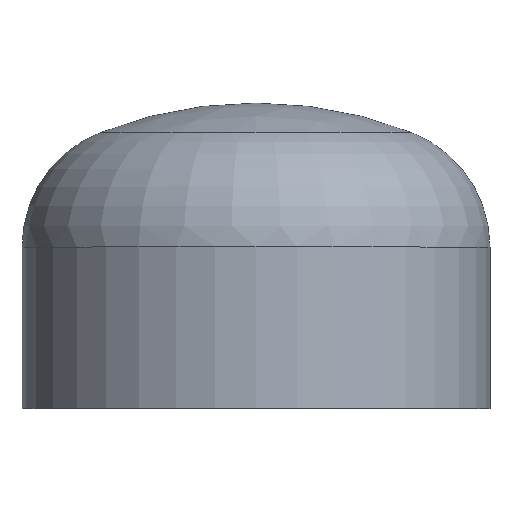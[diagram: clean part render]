
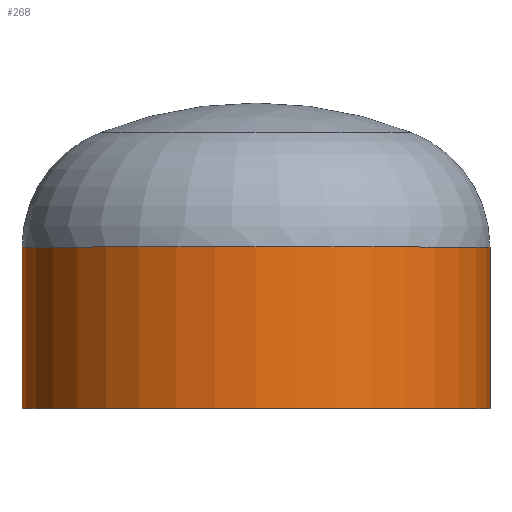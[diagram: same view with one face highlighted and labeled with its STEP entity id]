
A CAD part, top view. The second image highlights one B-rep face of the part: STEP entity #268.
In plain terms, the highlighted cylindrical face has radius 203.2 mm (diameter 406.4 mm), a partial arc.
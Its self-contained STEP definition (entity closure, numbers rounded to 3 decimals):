
#5 = FACE_OUTER_BOUND ( 'NONE', #96, .T. ) ;
#37 = VERTEX_POINT ( 'NONE', #398 ) ;
#40 = CARTESIAN_POINT ( 'NONE',  ( 0., 0., 0. ) ) ;
#41 = ORIENTED_EDGE ( 'NONE', *, *, #373, .T. ) ;
#51 = ORIENTED_EDGE ( 'NONE', *, *, #138, .F. ) ;
#53 = ORIENTED_EDGE ( 'NONE', *, *, #401, .F. ) ;
#56 = VERTEX_POINT ( 'NONE', #280 ) ;
#66 = AXIS2_PLACEMENT_3D ( 'NONE', #40, #181, #241 ) ;
#74 = VERTEX_POINT ( 'NONE', #234 ) ;
#92 = VERTEX_POINT ( 'NONE', #243 ) ;
#96 = EDGE_LOOP ( 'NONE', ( #169, #41, #53, #51 ) ) ;
#118 = EDGE_CURVE ( 'NONE', #92, #56, #232, .T. ) ;
#120 = CIRCLE ( 'NONE', #324, 203.2 ) ;
#132 = AXIS2_PLACEMENT_3D ( 'NONE', #319, #316, #315 ) ;
#138 = EDGE_CURVE ( 'NONE', #92, #74, #403, .T. ) ;
#140 = CYLINDRICAL_SURFACE ( 'NONE', #66, 203.2 ) ;
#169 = ORIENTED_EDGE ( 'NONE', *, *, #118, .T. ) ;
#179 = DIRECTION ( 'NONE',  ( 0., -1., 0. ) ) ;
#181 = DIRECTION ( 'NONE',  ( 0., -1., 0. ) ) ;
#194 = CARTESIAN_POINT ( 'NONE',  ( 0., 0., 0. ) ) ;
#197 = CARTESIAN_POINT ( 'NONE',  ( -203.2, 0., 0. ) ) ;
#200 = VECTOR ( 'NONE', #179, 1000. ) ;
#208 = CARTESIAN_POINT ( 'NONE',  ( 203.2, 0., 0. ) ) ;
#209 = LINE ( 'NONE', #197, #200 ) ;
#210 = DIRECTION ( 'NONE',  ( 0., -1., 0. ) ) ;
#225 = DIRECTION ( 'NONE',  ( 1., 0., 0. ) ) ;
#232 = CIRCLE ( 'NONE', #132, 203.2 ) ;
#234 = CARTESIAN_POINT ( 'NONE',  ( 203.2, 0., 0. ) ) ;
#241 = DIRECTION ( 'NONE',  ( 1., 0., 0. ) ) ;
#243 = CARTESIAN_POINT ( 'NONE',  ( 203.2, 140., 0. ) ) ;
#268 = ADVANCED_FACE ( 'NONE', ( #5 ), #140, .T. ) ;
#280 = CARTESIAN_POINT ( 'NONE',  ( -203.2, 140., 0. ) ) ;
#315 = DIRECTION ( 'NONE',  ( 1., 0., 0. ) ) ;
#316 = DIRECTION ( 'NONE',  ( 0., -1., 0. ) ) ;
#319 = CARTESIAN_POINT ( 'NONE',  ( 0., 140., 0. ) ) ;
#324 = AXIS2_PLACEMENT_3D ( 'NONE', #194, #368, #225 ) ;
#368 = DIRECTION ( 'NONE',  ( 0., -1., 0. ) ) ;
#373 = EDGE_CURVE ( 'NONE', #56, #37, #209, .T. ) ;
#394 = VECTOR ( 'NONE', #210, 1000. ) ;
#398 = CARTESIAN_POINT ( 'NONE',  ( -203.2, 0., 0. ) ) ;
#401 = EDGE_CURVE ( 'NONE', #74, #37, #120, .T. ) ;
#403 = LINE ( 'NONE', #208, #394 ) ;
